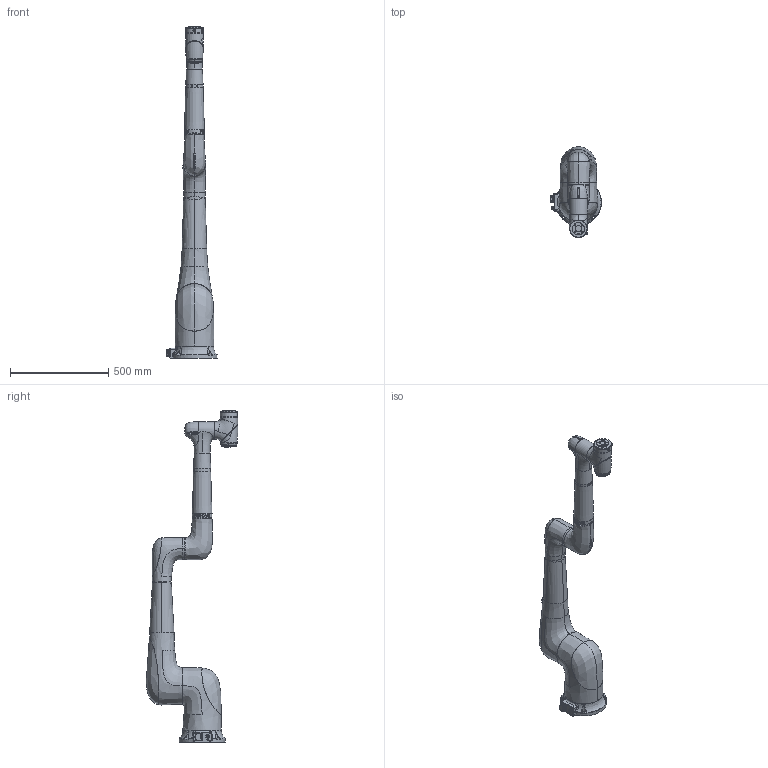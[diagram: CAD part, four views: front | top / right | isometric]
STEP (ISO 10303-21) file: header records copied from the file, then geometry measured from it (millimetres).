
FILE_DESCRIPTION(/* description */ (''),/* implementation_level */ '2;1');
FILE_NAME(/* name */ '【】XMC5-C简化模型.stp',/* time_stamp */ '2026-07-10T18:53:38+08:00',/* author */ (''),/* organization */ (''),/* preprocessor_version */ 'ST-DEVELOPER v16',/* originating_system */ 'SIEMENS PLM Software NX 10.0',/* authorisation */ '');
FILE_SCHEMA (('CONFIG_CONTROL_DESIGN'));
Products named in the file (8): XMC5-C-dabi; XMC5-C-shuchu; XMC5-C-shouwan; XMC5-C-xiaobihou; XMC5-C-xiaobiqian-A; XMC5-C-yao; XMC5-C-base; 【】XMC5-C简化模型
Assembly tree (7 placements, depth 2):
  【】XMC5-C简化模型
    XMC5-C-base
    XMC5-C-yao
    XMC5-C-xiaobiqian-A
    XMC5-C-xiaobihou
    XMC5-C-shouwan
    XMC5-C-shuchu
    XMC5-C-dabi
Bounding box: 257.51 x 464.12 x 1685.5 mm (x, y, z)
Volume: 30383221.4 mm3; surface area: 1359804.2 mm2
Topology: 9 solids, 29 shells, 2737 faces, 7184 edges, 4582 vertices
Faces by surface type: plane 1205, cylinder 511, cone 493, bspline 371, torus 123, sphere 20, revolution 7, extrusion 7
Full cylindrical faces by diameter (mm): 2.5 x8, 2.874 x8, 3.3 x1, 3.4 x8, 4 x1, 4.2 x1, 4.84 x4, 5 x4, 5.5 x8, 5.6 x4, 6 x2, 11 x4, 14 x1, 14.2 x1, 16.5 x1, 28.5 x1, 31.5 x1, 60 x6, 63 x1, 86 x1, 88 x2, 88.6 x1, 98 x1, 100 x3, 140 x4
Entity records: 134889 total; most frequent: CARTESIAN_POINT 71207, ORIENTED_EDGE 13720, DIRECTION 11884, EDGE_CURVE 6860, AXIS2_PLACEMENT_3D 4590, VERTEX_POINT 4496, EDGE_LOOP 3122, ADVANCED_FACE 2737
